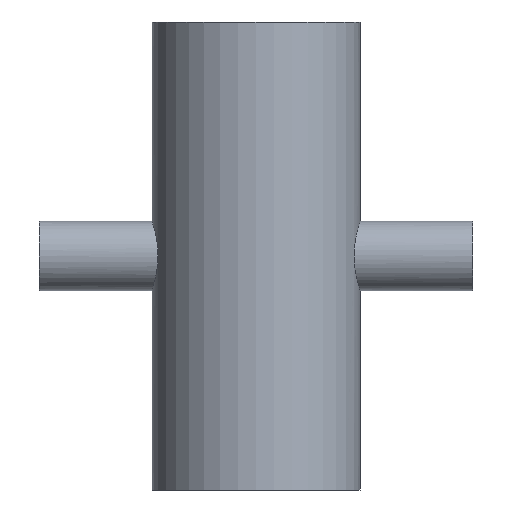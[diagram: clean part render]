
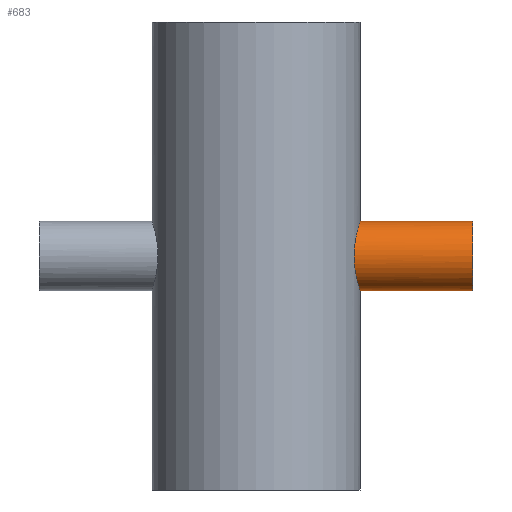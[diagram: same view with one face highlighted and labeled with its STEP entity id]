
A CAD part, front view. The second image highlights one B-rep face of the part: STEP entity #683.
In plain terms, the highlighted cylindrical face has radius 12.7 mm (diameter 25.4 mm), a partial arc.
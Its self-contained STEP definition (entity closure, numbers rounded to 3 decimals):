
#20 = CARTESIAN_POINT ( 'NONE',  ( 38.1, 0., -12.7 ) ) ;
#40 = CARTESIAN_POINT ( 'NONE',  ( 37.501, -6.739, 10.773 ) ) ;
#42 = CARTESIAN_POINT ( 'NONE',  ( -79.375, 0., 12.7 ) ) ;
#43 = CARTESIAN_POINT ( 'NONE',  ( 38.1, 0., 12.7 ) ) ;
#49 = DIRECTION ( 'NONE',  ( 1., 0., 0. ) ) ;
#54 = CARTESIAN_POINT ( 'NONE',  ( 38.1, -0.845, -12.7 ) ) ;
#79 = CARTESIAN_POINT ( 'NONE',  ( 38.1, 0., -12.7 ) ) ;
#91 = EDGE_CURVE ( 'NONE', #368, #669, #556, .T. ) ;
#99 = CARTESIAN_POINT ( 'NONE',  ( 36.885, -9.563, -8.398 ) ) ;
#118 = CARTESIAN_POINT ( 'NONE',  ( 35.921, -12.699, -0.849 ) ) ;
#121 = CARTESIAN_POINT ( 'NONE',  ( 38.072, -1.675, -12.616 ) ) ;
#122 = CARTESIAN_POINT ( 'NONE',  ( 36.146, -12.05, 4.098 ) ) ;
#124 = B_SPLINE_CURVE_WITH_KNOTS ( 'NONE', 3,
 ( #79, #54, #121, #125, #201, #637, #232, #707, #304, #779, #853, #508, #174, #99, #642, #710, #163, #573, #505, #725, #317, #527, #118, #587, #257, #731, #191, #660, #122, #589, #798, #326, #261, #664, #194, #594, #127, #532, #464, #40, #654, #657, #254, #727, #320, #800, #392, #871, #460, #43 ),
 .UNSPECIFIED., .F., .F.,
 ( 4, 2, 2, 2, 2, 2, 2, 2, 2, 2, 2, 2, 2, 2, 2, 2, 2, 2, 2, 2, 2, 2, 2, 2, 4 ),
 ( 0.04, 0.042, 0.044, 0.045, 0.047, 0.049, 0.05, 0.052, 0.055, 0.056, 0.057, 0.06, 0.061, 0.062, 0.065, 0.066, 0.067, 0.069, 0.07, 0.072, 0.074, 0.075, 0.077, 0.079, 0.08 ),
 .UNSPECIFIED. ) ;
#125 = CARTESIAN_POINT ( 'NONE',  ( 37.992, -2.899, -12.372 ) ) ;
#127 = CARTESIAN_POINT ( 'NONE',  ( 36.955, -9.277, 8.683 ) ) ;
#148 = ORIENTED_EDGE ( 'NONE', *, *, #835, .F. ) ;
#163 = CARTESIAN_POINT ( 'NONE',  ( 36.355, -11.404, -5.649 ) ) ;
#174 = CARTESIAN_POINT ( 'NONE',  ( 37.097, -8.691, -9.269 ) ) ;
#180 = VERTEX_POINT ( 'NONE', #783 ) ;
#186 = AXIS2_PLACEMENT_3D ( 'NONE', #400, #459, #759 ) ;
#190 = DIRECTION ( 'NONE',  ( 1., 0., 0. ) ) ;
#191 = CARTESIAN_POINT ( 'NONE',  ( 35.979, -12.536, 2.078 ) ) ;
#194 = CARTESIAN_POINT ( 'NONE',  ( 36.743, -10.082, 7.733 ) ) ;
#201 = CARTESIAN_POINT ( 'NONE',  ( 37.959, -3.303, -12.27 ) ) ;
#232 = CARTESIAN_POINT ( 'NONE',  ( 37.835, -4.5, -11.883 ) ) ;
#242 = DIRECTION ( 'NONE',  ( -1., 0., 0. ) ) ;
#254 = CARTESIAN_POINT ( 'NONE',  ( 37.736, -5.271, 11.562 ) ) ;
#257 = CARTESIAN_POINT ( 'NONE',  ( 35.928, -12.68, 0.824 ) ) ;
#261 = CARTESIAN_POINT ( 'NONE',  ( 36.542, -10.786, 6.717 ) ) ;
#274 = AXIS2_PLACEMENT_3D ( 'NONE', #787, #242, #716 ) ;
#287 = LINE ( 'NONE', #42, #486 ) ;
#290 = EDGE_LOOP ( 'NONE', ( #640, #148, #380, #331 ) ) ;
#304 = CARTESIAN_POINT ( 'NONE',  ( 37.569, -6.379, -11.013 ) ) ;
#317 = CARTESIAN_POINT ( 'NONE',  ( 36.036, -12.37, -2.908 ) ) ;
#320 = CARTESIAN_POINT ( 'NONE',  ( 37.963, -3.333, 12.284 ) ) ;
#325 = CARTESIAN_POINT ( 'NONE',  ( 79.375, 0., 12.7 ) ) ;
#326 = CARTESIAN_POINT ( 'NONE',  ( 36.479, -10.998, 6.364 ) ) ;
#331 = ORIENTED_EDGE ( 'NONE', *, *, #91, .T. ) ;
#368 = VERTEX_POINT ( 'NONE', #711 ) ;
#380 = ORIENTED_EDGE ( 'NONE', *, *, #767, .T. ) ;
#392 = CARTESIAN_POINT ( 'NONE',  ( 38.065, -1.682, 12.595 ) ) ;
#400 = CARTESIAN_POINT ( 'NONE',  ( -79.375, 0., 0. ) ) ;
#446 = FACE_OUTER_BOUND ( 'NONE', #290, .T. ) ;
#459 = DIRECTION ( 'NONE',  ( 1., 0., 0. ) ) ;
#460 = CARTESIAN_POINT ( 'NONE',  ( 38.1, -0.423, 12.7 ) ) ;
#464 = CARTESIAN_POINT ( 'NONE',  ( 37.307, -7.767, 10.082 ) ) ;
#486 = VECTOR ( 'NONE', #49, 1000. ) ;
#505 = CARTESIAN_POINT ( 'NONE',  ( 36.154, -12.022, -4.116 ) ) ;
#508 = CARTESIAN_POINT ( 'NONE',  ( 37.167, -8.386, -9.546 ) ) ;
#527 = CARTESIAN_POINT ( 'NONE',  ( 35.951, -12.617, -1.677 ) ) ;
#532 = CARTESIAN_POINT ( 'NONE',  ( 37.167, -8.401, 9.56 ) ) ;
#556 = CIRCLE ( 'NONE', #274, 12.7 ) ;
#573 = CARTESIAN_POINT ( 'NONE',  ( 36.2, -11.881, -4.505 ) ) ;
#587 = CARTESIAN_POINT ( 'NONE',  ( 35.921, -12.7, 0.403 ) ) ;
#589 = CARTESIAN_POINT ( 'NONE',  ( 36.302, -11.569, 5.256 ) ) ;
#594 = CARTESIAN_POINT ( 'NONE',  ( 36.883, -9.557, 8.374 ) ) ;
#637 = CARTESIAN_POINT ( 'NONE',  ( 37.88, -4.104, -12.026 ) ) ;
#640 = ORIENTED_EDGE ( 'NONE', *, *, #790, .F. ) ;
#642 = CARTESIAN_POINT ( 'NONE',  ( 36.744, -10.086, -7.763 ) ) ;
#645 = LINE ( 'NONE', #734, #857 ) ;
#654 = CARTESIAN_POINT ( 'NONE',  ( 37.564, -6.382, 10.988 ) ) ;
#657 = CARTESIAN_POINT ( 'NONE',  ( 37.681, -5.646, 11.383 ) ) ;
#660 = CARTESIAN_POINT ( 'NONE',  ( 36.063, -12.291, 3.303 ) ) ;
#664 = CARTESIAN_POINT ( 'NONE',  ( 36.674, -10.328, 7.402 ) ) ;
#669 = VERTEX_POINT ( 'NONE', #325 ) ;
#683 = ADVANCED_FACE ( 'NONE', ( #446 ), #806, .T. ) ;
#707 = CARTESIAN_POINT ( 'NONE',  ( 37.686, -5.651, -11.404 ) ) ;
#710 = CARTESIAN_POINT ( 'NONE',  ( 36.476, -11.014, -6.377 ) ) ;
#711 = CARTESIAN_POINT ( 'NONE',  ( 79.375, 0., -12.7 ) ) ;
#716 = DIRECTION ( 'NONE',  ( 0., 0., -1. ) ) ;
#725 = CARTESIAN_POINT ( 'NONE',  ( 36.072, -12.266, -3.318 ) ) ;
#727 = CARTESIAN_POINT ( 'NONE',  ( 37.884, -4.125, 12.04 ) ) ;
#731 = CARTESIAN_POINT ( 'NONE',  ( 35.957, -12.598, 1.663 ) ) ;
#734 = CARTESIAN_POINT ( 'NONE',  ( -79.375, 0., -12.7 ) ) ;
#759 = DIRECTION ( 'NONE',  ( 0., 0., -1. ) ) ;
#767 = EDGE_CURVE ( 'NONE', #878, #368, #645, .T. ) ;
#779 = CARTESIAN_POINT ( 'NONE',  ( 37.374, -7.41, -10.322 ) ) ;
#783 = CARTESIAN_POINT ( 'NONE',  ( 38.1, 0., 12.7 ) ) ;
#787 = CARTESIAN_POINT ( 'NONE',  ( 79.375, 0., 0. ) ) ;
#790 = EDGE_CURVE ( 'NONE', #180, #669, #287, .T. ) ;
#798 = CARTESIAN_POINT ( 'NONE',  ( 36.358, -11.389, 5.634 ) ) ;
#800 = CARTESIAN_POINT ( 'NONE',  ( 38.044, -2.101, 12.532 ) ) ;
#806 = CYLINDRICAL_SURFACE ( 'NONE', #186, 12.7 ) ;
#835 = EDGE_CURVE ( 'NONE', #878, #180, #124, .T. ) ;
#853 = CARTESIAN_POINT ( 'NONE',  ( 37.306, -7.746, -10.073 ) ) ;
#857 = VECTOR ( 'NONE', #190, 1000. ) ;
#871 = CARTESIAN_POINT ( 'NONE',  ( 38.093, -0.844, 12.679 ) ) ;
#878 = VERTEX_POINT ( 'NONE', #20 ) ;
